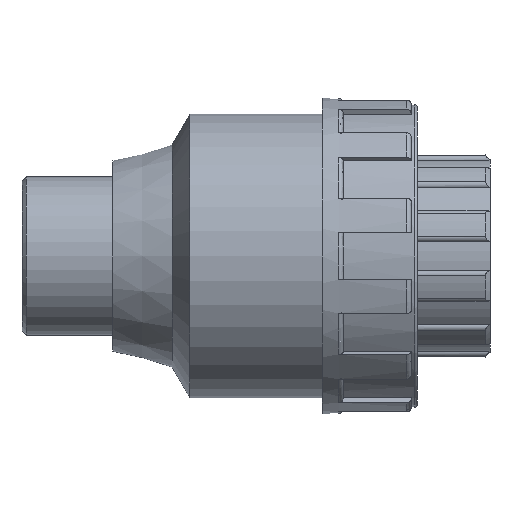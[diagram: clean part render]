
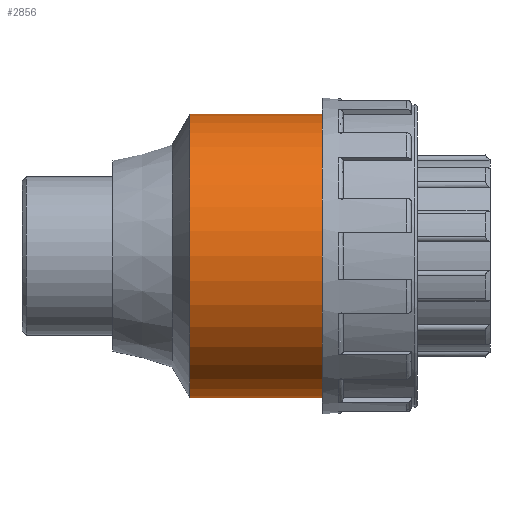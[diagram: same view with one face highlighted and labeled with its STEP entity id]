
A CAD part, front view. The second image highlights one B-rep face of the part: STEP entity #2856.
In plain terms, the highlighted cylindrical face has radius 29.7 mm (diameter 59.4 mm), a full revolution.
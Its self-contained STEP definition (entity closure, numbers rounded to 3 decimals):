
#35=FACE_BOUND('',#506,.T.);
#36=FACE_BOUND('',#507,.T.);
#317=FACE_OUTER_BOUND('',#505,.T.);
#505=EDGE_LOOP('',(#2627));
#506=EDGE_LOOP('',(#2628));
#507=EDGE_LOOP('',(#2629));
#699=CIRCLE('',#3209,29.7);
#700=CIRCLE('',#3211,29.7);
#1051=B_SPLINE_CURVE_WITH_KNOTS('',3,(#4692,#4693,#4694,#4695,#4696,#4697,
#4698,#4699,#4700,#4701,#4702,#4703,#4704,#4705,#4706,#4707,#4708,#4709,
#4710,#4711,#4712,#4713,#4714,#4715,#4716,#4717,#4718,#4719,#4720,#4721,
#4722,#4723,#4724,#4725),.UNSPECIFIED.,.T.,.F.,(4,2,2,2,2,2,2,2,2,2,2,2,
2,2,2,2,4),(0.,0.376,0.752,1.128,1.504,
1.88,2.256,2.632,3.008,3.385,
3.761,4.137,4.513,4.889,5.265,
5.641,6.017),.UNSPECIFIED.);
#1215=VERTEX_POINT('',#4691);
#1374=VERTEX_POINT('',#5633);
#1375=VERTEX_POINT('',#5636);
#1563=EDGE_CURVE('',#1215,#1215,#1051,.T.);
#1794=EDGE_CURVE('',#1374,#1374,#699,.T.);
#1795=EDGE_CURVE('',#1375,#1375,#700,.T.);
#2627=ORIENTED_EDGE('',*,*,#1795,.F.);
#2628=ORIENTED_EDGE('',*,*,#1563,.T.);
#2629=ORIENTED_EDGE('',*,*,#1794,.T.);
#2691=CYLINDRICAL_SURFACE('',#3210,29.7);
#2856=ADVANCED_FACE('',(#317,#35,#36),#2691,.T.);
#3209=AXIS2_PLACEMENT_3D('',#5634,#4076,#4077);
#3210=AXIS2_PLACEMENT_3D('',#5635,#4078,#4079);
#3211=AXIS2_PLACEMENT_3D('',#5637,#4080,#4081);
#4076=DIRECTION('center_axis',(1.,0.,0.));
#4077=DIRECTION('ref_axis',(0.,0.,-1.));
#4078=DIRECTION('center_axis',(1.,0.,0.));
#4079=DIRECTION('ref_axis',(0.,1.,0.));
#4080=DIRECTION('center_axis',(1.,0.,0.));
#4081=DIRECTION('ref_axis',(0.,0.,-1.));
#4691=CARTESIAN_POINT('',(0.,28.001,-9.9));
#4692=CARTESIAN_POINT('Ctrl Pts',(0.,28.001,
-9.9));
#4693=CARTESIAN_POINT('Ctrl Pts',(1.254,28.001,-9.9));
#4694=CARTESIAN_POINT('Ctrl Pts',(2.584,28.094,-9.647));
#4695=CARTESIAN_POINT('Ctrl Pts',(5.02,28.422,-8.634));
#4696=CARTESIAN_POINT('Ctrl Pts',(6.127,28.651,-7.874));
#4697=CARTESIAN_POINT('Ctrl Pts',(7.874,29.075,-6.127));
#4698=CARTESIAN_POINT('Ctrl Pts',(8.634,29.298,-5.02));
#4699=CARTESIAN_POINT('Ctrl Pts',(9.648,29.613,-2.584));
#4700=CARTESIAN_POINT('Ctrl Pts',(9.9,29.7,-1.253));
#4701=CARTESIAN_POINT('Ctrl Pts',(9.9,29.7,1.253));
#4702=CARTESIAN_POINT('Ctrl Pts',(9.648,29.613,2.584));
#4703=CARTESIAN_POINT('Ctrl Pts',(8.634,29.298,5.02));
#4704=CARTESIAN_POINT('Ctrl Pts',(7.874,29.075,6.127));
#4705=CARTESIAN_POINT('Ctrl Pts',(6.127,28.651,7.874));
#4706=CARTESIAN_POINT('Ctrl Pts',(5.02,28.422,8.634));
#4707=CARTESIAN_POINT('Ctrl Pts',(2.584,28.094,9.647));
#4708=CARTESIAN_POINT('Ctrl Pts',(1.254,28.001,9.9));
#4709=CARTESIAN_POINT('Ctrl Pts',(-1.254,28.001,9.9));
#4710=CARTESIAN_POINT('Ctrl Pts',(-2.584,28.094,9.647));
#4711=CARTESIAN_POINT('Ctrl Pts',(-5.02,28.422,8.634));
#4712=CARTESIAN_POINT('Ctrl Pts',(-6.127,28.651,7.874));
#4713=CARTESIAN_POINT('Ctrl Pts',(-7.874,29.075,6.127));
#4714=CARTESIAN_POINT('Ctrl Pts',(-8.634,29.298,5.02));
#4715=CARTESIAN_POINT('Ctrl Pts',(-9.648,29.613,2.584));
#4716=CARTESIAN_POINT('Ctrl Pts',(-9.9,29.7,1.253));
#4717=CARTESIAN_POINT('Ctrl Pts',(-9.9,29.7,-1.253));
#4718=CARTESIAN_POINT('Ctrl Pts',(-9.648,29.613,-2.584));
#4719=CARTESIAN_POINT('Ctrl Pts',(-8.634,29.298,-5.02));
#4720=CARTESIAN_POINT('Ctrl Pts',(-7.874,29.075,-6.127));
#4721=CARTESIAN_POINT('Ctrl Pts',(-6.127,28.651,-7.874));
#4722=CARTESIAN_POINT('Ctrl Pts',(-5.02,28.422,-8.634));
#4723=CARTESIAN_POINT('Ctrl Pts',(-2.584,28.094,-9.647));
#4724=CARTESIAN_POINT('Ctrl Pts',(-1.254,28.001,-9.9));
#4725=CARTESIAN_POINT('Ctrl Pts',(0.,28.001,-9.9));
#5633=CARTESIAN_POINT('',(-13.85,29.7,0.));
#5634=CARTESIAN_POINT('Origin',(-13.85,0.,0.));
#5635=CARTESIAN_POINT('Origin',(0.,0.,0.));
#5636=CARTESIAN_POINT('',(13.85,29.7,0.));
#5637=CARTESIAN_POINT('Origin',(13.85,0.,0.));
